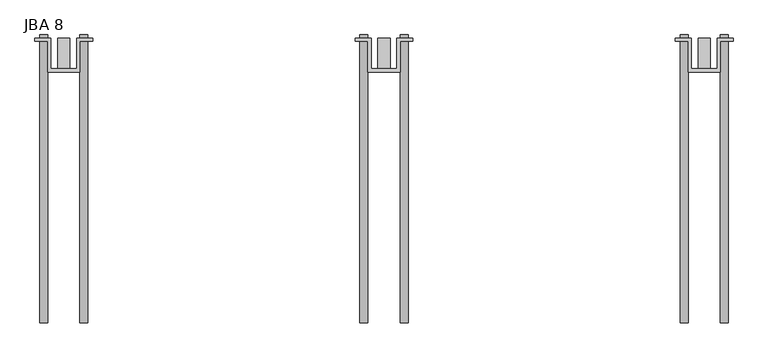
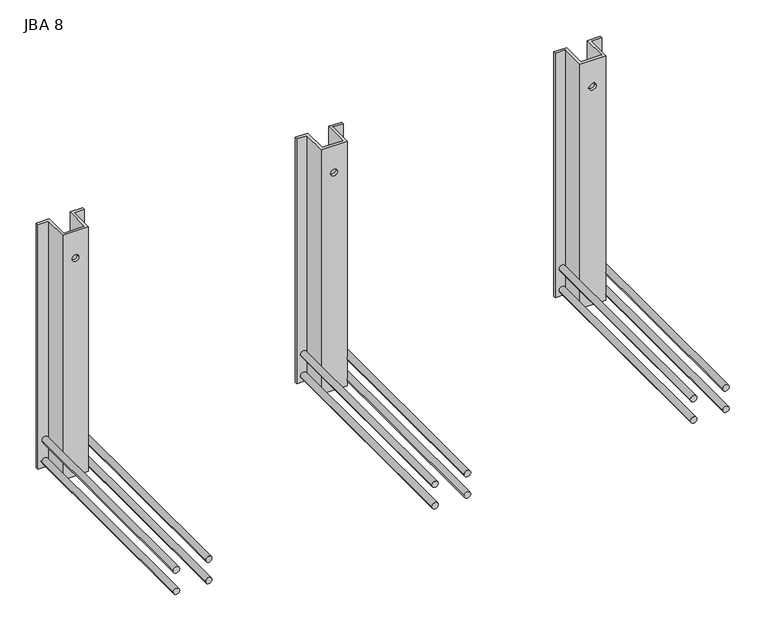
"""IFC4 building model written with IfcOpenShell, lengths in millimetres: fastener geometry, JBA JORDAHL® support corbels_1 : JBA 8."""

from ifc_helpers import new_model, si_unit, point, frame, frame_2d, origin, place, context, project, spatial, polyline, circle_curve, trimmed, segment, composite_curve, outline, extrude, source, transform, mapped, element, save
from ifc_brep_helpers import plane_surface, revolved_surface, advanced_brep


def jba_8_e973712a(model_context):
    return source(origin(), model_context, "Body", "SolidModel", [
        extrude(outline(composite_curve([segment(trimmed(circle_curve(frame_2d((-35.0, 1550.0)), 10.0), [point((-35.0, 1540.0))], [point((-35.0, 1560.0))], False, "CARTESIAN"), True, "CONTINUOUS"), segment(trimmed(circle_curve(frame_2d((-35.0, 1550.0)), 10.0), [point((-35.0, 1560.0))], [point((-35.0, 1540.0))], False, "CARTESIAN"), True, "CONTINUOUS")], self_intersect=False)), frame((0.0, -627.0, 0.0), z_axis=(0.0, 1.0, 0.0), x_axis=(0.0, 0.0, 1.0)), (0.0, 0.0, 1.0), 720.0),
        extrude(outline(composite_curve([segment(trimmed(circle_curve(frame_2d((-35.0, 1650.0)), 10.0), [point((-35.0, 1640.0))], [point((-35.0, 1660.0))], False, "CARTESIAN"), True, "CONTINUOUS"), segment(trimmed(circle_curve(frame_2d((-35.0, 1650.0)), 10.0), [point((-35.0, 1660.0))], [point((-35.0, 1640.0))], False, "CARTESIAN"), True, "CONTINUOUS")], self_intersect=False)), frame((0.0, -627.0, 0.0), z_axis=(0.0, 1.0, 0.0), x_axis=(0.0, 0.0, 1.0)), (0.0, 0.0, 1.0), 720.0),
        extrude(outline(composite_curve([segment(trimmed(circle_curve(frame_2d((-105.0, 1550.0)), 10.0), [point((-105.0, 1540.0))], [point((-105.0, 1560.0))], False, "CARTESIAN"), True, "CONTINUOUS"), segment(trimmed(circle_curve(frame_2d((-105.0, 1550.0)), 10.0), [point((-105.0, 1560.0))], [point((-105.0, 1540.0))], False, "CARTESIAN"), True, "CONTINUOUS")], self_intersect=False)), frame((0.0, -627.0, 0.0), z_axis=(0.0, 1.0, 0.0), x_axis=(0.0, 0.0, 1.0)), (0.0, 0.0, 1.0), 720.0),
        extrude(outline(composite_curve([segment(trimmed(circle_curve(frame_2d((-105.0, 1650.0)), 10.0), [point((-105.0, 1640.0))], [point((-105.0, 1660.0))], False, "CARTESIAN"), True, "CONTINUOUS"), segment(trimmed(circle_curve(frame_2d((-105.0, 1650.0)), 10.0), [point((-105.0, 1660.0))], [point((-105.0, 1640.0))], False, "CARTESIAN"), True, "CONTINUOUS")], self_intersect=False)), frame((0.0, -627.0, 0.0), z_axis=(0.0, 1.0, 0.0), x_axis=(0.0, 0.0, 1.0)), (0.0, 0.0, 1.0), 720.0),
        advanced_brep(
        [(1528.0, 77.0, 675.0), (1560.0, 77.0, 675.0), (1560.0, 0.0, 675.0), (1640.0, 0.0, 675.0), (1640.0, 77.0, 675.0), (1672.0, 77.0, 675.0), (1672.0, 85.0, 675.0), (1632.0, 85.0, 675.0), (1632.0, 8.0, 675.0), (1568.0, 8.0, 675.0), (1568.0, 85.0, 675.0), (1528.0, 85.0, 675.0), (1528.0, 77.0, -125.0), (1528.0, 85.0, -125.0), (1568.0, 85.0, -125.0), (1568.0, 8.0, -125.0), (1632.0, 8.0, -125.0), (1632.0, 85.0, -125.0), (1672.0, 85.0, -125.0), (1672.0, 77.0, -125.0), (1640.0, 77.0, -125.0), (1640.0, 0.0, -125.0), (1560.0, 0.0, -125.0), (1560.0, 77.0, -125.0), (1610.5, 0.0, 587.0), (1589.5, 0.0, 587.0), (1589.5, 8.0, 587.0), (1610.5, 8.0, 587.0)],
        [
            (0, 1),
            (1, 2),
            (2, 3),
            (3, 4),
            (4, 5),
            (5, 6),
            (6, 7),
            (7, 8),
            (8, 9),
            (9, 10),
            (10, 11),
            (11, 0),
            (12, 13),
            (13, 14),
            (14, 15),
            (15, 16),
            (16, 17),
            (17, 18),
            (18, 19),
            (19, 20),
            (20, 21),
            (21, 22),
            (22, 23),
            (23, 12),
            (0, 12),
            (23, 1),
            (22, 2),
            (21, 3),
            (24, 25, circle_curve(frame((1600.0, 0.0, 587.0), z_axis=(0.0, 1.0, 0.0), x_axis=(1.0, 0.0, 0.0)), 10.5)),
            (25, 24, circle_curve(frame((1600.0, 0.0, 587.0), z_axis=(0.0, 1.0, 0.0), x_axis=(1.0, 0.0, 0.0)), 10.5)),
            (20, 4),
            (19, 5),
            (18, 6),
            (17, 7),
            (16, 8),
            (15, 9),
            (26, 27, circle_curve(frame((1600.0, 8.0, 587.0), z_axis=(0.0, -1.0, 0.0), x_axis=(1.0, 0.0, 0.0)), 10.5)),
            (27, 26, circle_curve(frame((1600.0, 8.0, 587.0), z_axis=(0.0, -1.0, 0.0), x_axis=(1.0, 0.0, 0.0)), 10.5)),
            (14, 10),
            (13, 11),
            (24, 27),
            (26, 25),
        ],
        [
            plane_surface(frame((1600.0, 85.0, 675.0), z_axis=(0.0, 0.0, 1.0), x_axis=(0.0, -1.0, 0.0))),
            plane_surface(frame((1600.0, 85.0, -125.0), z_axis=(0.0, 0.0, -1.0), x_axis=(0.0, -1.0, 0.0))),
            plane_surface(frame((1528.0, 77.0, 675.0), z_axis=(0.0, -1.0, 0.0), x_axis=(0.0, 0.0, -1.0))),
            plane_surface(frame((1560.0, 77.0, 675.0), z_axis=(-1.0, 0.0, 0.0), x_axis=(0.0, 0.0, -1.0))),
            plane_surface(frame((1560.0, 0.0, 675.0), z_axis=(0.0, -1.0, 0.0), x_axis=(0.0, 0.0, -1.0))),
            plane_surface(frame((1640.0, 0.0, 675.0), z_axis=(1.0, 0.0, 0.0), x_axis=(0.0, 0.0, -1.0))),
            plane_surface(frame((1640.0, 77.0, 675.0), z_axis=(0.0, -1.0, 0.0), x_axis=(0.0, 0.0, -1.0))),
            plane_surface(frame((1672.0, 77.0, 675.0), z_axis=(1.0, 0.0, 0.0), x_axis=(0.0, 0.0, -1.0))),
            plane_surface(frame((1672.0, 85.0, 675.0), z_axis=(0.0, 1.0, 0.0), x_axis=(0.0, 0.0, -1.0))),
            plane_surface(frame((1632.0, 85.0, 675.0), z_axis=(-1.0, 0.0, 0.0), x_axis=(0.0, 0.0, -1.0))),
            plane_surface(frame((1632.0, 8.0, 675.0), z_axis=(0.0, 1.0, 0.0), x_axis=(0.0, 0.0, -1.0))),
            plane_surface(frame((1568.0, 8.0, 675.0), z_axis=(1.0, 0.0, 0.0), x_axis=(0.0, 0.0, -1.0))),
            plane_surface(frame((1568.0, 85.0, 675.0), z_axis=(0.0, 1.0, 0.0), x_axis=(0.0, 0.0, -1.0))),
            plane_surface(frame((1528.0, 85.0, 675.0), z_axis=(-1.0, 0.0, 0.0), x_axis=(0.0, 0.0, -1.0))),
            revolved_surface(polyline([(1610.5, 0.0, 587.0), (1610.5, 8.0, 587.0)]), (1600.0, 8.0, 587.0), (0.0, -1.0, 0.0)),
        ],
        [
            (0, [[1, 2, 3, 4, 5, 6, 7, 8, 9, 10, 11, 12]]),
            (1, [[13, 14, 15, 16, 17, 18, 19, 20, 21, 22, 23, 24]]),
            (2, [[-1, 25, -24, 26]]),
            (3, [[-2, -26, -23, 27]]),
            (4, [[-3, -27, -22, 28], [29, 30]]),
            (5, [[-4, -28, -21, 31]]),
            (6, [[-5, -31, -20, 32]]),
            (7, [[-6, -32, -19, 33]]),
            (8, [[-7, -33, -18, 34]]),
            (9, [[-8, -34, -17, 35]]),
            (10, [[-9, -35, -16, 36], [37, 38]]),
            (11, [[-10, -36, -15, 39]]),
            (12, [[-11, -39, -14, 40]]),
            (13, [[-12, -40, -13, -25]]),
            (14, [[41, -37, 42, -29]]),
            (14, [[-41, -30, -42, -38]]),
        ],
    ),
        extrude(outline(composite_curve([segment(trimmed(circle_curve(frame_2d((150.0, 1600.0)), 15.0), [point((150.0, 1585.0))], [point((150.0, 1615.0))], False, "CARTESIAN"), True, "CONTINUOUS"), segment(trimmed(circle_curve(frame_2d((150.0, 1600.0)), 15.0), [point((150.0, 1615.0))], [point((150.0, 1585.0))], False, "CARTESIAN"), True, "CONTINUOUS")], self_intersect=False)), frame((0.0, 8.0, 0.0), z_axis=(0.0, 1.0, 0.0), x_axis=(0.0, 0.0, 1.0)), (0.0, 0.0, 1.0), 77.0),
        extrude(outline(composite_curve([segment(trimmed(circle_curve(frame_2d((-35.0, 750.0)), 10.0), [point((-35.0, 740.0))], [point((-35.0, 760.0))], False, "CARTESIAN"), True, "CONTINUOUS"), segment(trimmed(circle_curve(frame_2d((-35.0, 750.0)), 10.0), [point((-35.0, 760.0))], [point((-35.0, 740.0))], False, "CARTESIAN"), True, "CONTINUOUS")], self_intersect=False)), frame((0.0, -627.0, 0.0), z_axis=(0.0, 1.0, 0.0), x_axis=(0.0, 0.0, 1.0)), (0.0, 0.0, 1.0), 720.0),
        extrude(outline(composite_curve([segment(trimmed(circle_curve(frame_2d((-35.0, 850.0)), 10.0), [point((-35.0, 840.0))], [point((-35.0, 860.0))], False, "CARTESIAN"), True, "CONTINUOUS"), segment(trimmed(circle_curve(frame_2d((-35.0, 850.0)), 10.0), [point((-35.0, 860.0))], [point((-35.0, 840.0))], False, "CARTESIAN"), True, "CONTINUOUS")], self_intersect=False)), frame((0.0, -627.0, 0.0), z_axis=(0.0, 1.0, 0.0), x_axis=(0.0, 0.0, 1.0)), (0.0, 0.0, 1.0), 720.0),
        extrude(outline(composite_curve([segment(trimmed(circle_curve(frame_2d((-105.0, 750.0)), 10.0), [point((-105.0, 740.0))], [point((-105.0, 760.0))], False, "CARTESIAN"), True, "CONTINUOUS"), segment(trimmed(circle_curve(frame_2d((-105.0, 750.0)), 10.0), [point((-105.0, 760.0))], [point((-105.0, 740.0))], False, "CARTESIAN"), True, "CONTINUOUS")], self_intersect=False)), frame((0.0, -627.0, 0.0), z_axis=(0.0, 1.0, 0.0), x_axis=(0.0, 0.0, 1.0)), (0.0, 0.0, 1.0), 720.0),
        extrude(outline(composite_curve([segment(trimmed(circle_curve(frame_2d((-105.0, 850.0)), 10.0), [point((-105.0, 840.0))], [point((-105.0, 860.0))], False, "CARTESIAN"), True, "CONTINUOUS"), segment(trimmed(circle_curve(frame_2d((-105.0, 850.0)), 10.0), [point((-105.0, 860.0))], [point((-105.0, 840.0))], False, "CARTESIAN"), True, "CONTINUOUS")], self_intersect=False)), frame((0.0, -627.0, 0.0), z_axis=(0.0, 1.0, 0.0), x_axis=(0.0, 0.0, 1.0)), (0.0, 0.0, 1.0), 720.0),
        advanced_brep(
        [(728.0, 77.0, 675.0), (760.0, 77.0, 675.0), (760.0, 0.0, 675.0), (840.0, 0.0, 675.0), (840.0, 77.0, 675.0), (872.0, 77.0, 675.0), (872.0, 85.0, 675.0), (832.0, 85.0, 675.0), (832.0, 8.0, 675.0), (768.0, 8.0, 675.0), (768.0, 85.0, 675.0), (728.0, 85.0, 675.0), (728.0, 77.0, -125.0), (728.0, 85.0, -125.0), (768.0, 85.0, -125.0), (768.0, 8.0, -125.0), (832.0, 8.0, -125.0), (832.0, 85.0, -125.0), (872.0, 85.0, -125.0), (872.0, 77.0, -125.0), (840.0, 77.0, -125.0), (840.0, 0.0, -125.0), (760.0, 0.0, -125.0), (760.0, 77.0, -125.0), (810.5, 0.0, 587.0), (789.5, 0.0, 587.0), (789.5, 8.0, 587.0), (810.5, 8.0, 587.0)],
        [
            (0, 1),
            (1, 2),
            (2, 3),
            (3, 4),
            (4, 5),
            (5, 6),
            (6, 7),
            (7, 8),
            (8, 9),
            (9, 10),
            (10, 11),
            (11, 0),
            (12, 13),
            (13, 14),
            (14, 15),
            (15, 16),
            (16, 17),
            (17, 18),
            (18, 19),
            (19, 20),
            (20, 21),
            (21, 22),
            (22, 23),
            (23, 12),
            (0, 12),
            (23, 1),
            (22, 2),
            (21, 3),
            (24, 25, circle_curve(frame((800.0, 0.0, 587.0), z_axis=(0.0, 1.0, 0.0), x_axis=(1.0, 0.0, 0.0)), 10.5)),
            (25, 24, circle_curve(frame((800.0, 0.0, 587.0), z_axis=(0.0, 1.0, 0.0), x_axis=(1.0, 0.0, 0.0)), 10.5)),
            (20, 4),
            (19, 5),
            (18, 6),
            (17, 7),
            (16, 8),
            (15, 9),
            (26, 27, circle_curve(frame((800.0, 8.0, 587.0), z_axis=(0.0, -1.0, 0.0), x_axis=(1.0, 0.0, 0.0)), 10.5)),
            (27, 26, circle_curve(frame((800.0, 8.0, 587.0), z_axis=(0.0, -1.0, 0.0), x_axis=(1.0, 0.0, 0.0)), 10.5)),
            (14, 10),
            (13, 11),
            (24, 27),
            (26, 25),
        ],
        [
            plane_surface(frame((800.0, 85.0, 675.0), z_axis=(0.0, 0.0, 1.0), x_axis=(0.0, -1.0, 0.0))),
            plane_surface(frame((800.0, 85.0, -125.0), z_axis=(0.0, 0.0, -1.0), x_axis=(0.0, -1.0, 0.0))),
            plane_surface(frame((728.0, 77.0, 675.0), z_axis=(0.0, -1.0, 0.0), x_axis=(0.0, 0.0, -1.0))),
            plane_surface(frame((760.0, 77.0, 675.0), z_axis=(-1.0, 0.0, 0.0), x_axis=(0.0, 0.0, -1.0))),
            plane_surface(frame((760.0, 0.0, 675.0), z_axis=(0.0, -1.0, 0.0), x_axis=(0.0, 0.0, -1.0))),
            plane_surface(frame((840.0, 0.0, 675.0), z_axis=(1.0, 0.0, 0.0), x_axis=(0.0, 0.0, -1.0))),
            plane_surface(frame((840.0, 77.0, 675.0), z_axis=(0.0, -1.0, 0.0), x_axis=(0.0, 0.0, -1.0))),
            plane_surface(frame((872.0, 77.0, 675.0), z_axis=(1.0, 0.0, 0.0), x_axis=(0.0, 0.0, -1.0))),
            plane_surface(frame((872.0, 85.0, 675.0), z_axis=(0.0, 1.0, 0.0), x_axis=(0.0, 0.0, -1.0))),
            plane_surface(frame((832.0, 85.0, 675.0), z_axis=(-1.0, 0.0, 0.0), x_axis=(0.0, 0.0, -1.0))),
            plane_surface(frame((832.0, 8.0, 675.0), z_axis=(0.0, 1.0, 0.0), x_axis=(0.0, 0.0, -1.0))),
            plane_surface(frame((768.0, 8.0, 675.0), z_axis=(1.0, 0.0, 0.0), x_axis=(0.0, 0.0, -1.0))),
            plane_surface(frame((768.0, 85.0, 675.0), z_axis=(0.0, 1.0, 0.0), x_axis=(0.0, 0.0, -1.0))),
            plane_surface(frame((728.0, 85.0, 675.0), z_axis=(-1.0, 0.0, 0.0), x_axis=(0.0, 0.0, -1.0))),
            revolved_surface(polyline([(810.5, 0.0, 587.0), (810.5, 8.0, 587.0)]), (800.0, 8.0, 587.0), (0.0, -1.0, 0.0)),
        ],
        [
            (0, [[1, 2, 3, 4, 5, 6, 7, 8, 9, 10, 11, 12]]),
            (1, [[13, 14, 15, 16, 17, 18, 19, 20, 21, 22, 23, 24]]),
            (2, [[-1, 25, -24, 26]]),
            (3, [[-2, -26, -23, 27]]),
            (4, [[-3, -27, -22, 28], [29, 30]]),
            (5, [[-4, -28, -21, 31]]),
            (6, [[-5, -31, -20, 32]]),
            (7, [[-6, -32, -19, 33]]),
            (8, [[-7, -33, -18, 34]]),
            (9, [[-8, -34, -17, 35]]),
            (10, [[-9, -35, -16, 36], [37, 38]]),
            (11, [[-10, -36, -15, 39]]),
            (12, [[-11, -39, -14, 40]]),
            (13, [[-12, -40, -13, -25]]),
            (14, [[41, -37, 42, -29]]),
            (14, [[-41, -30, -42, -38]]),
        ],
    ),
        extrude(outline(composite_curve([segment(trimmed(circle_curve(frame_2d((150.0, 800.0)), 15.0), [point((150.0, 785.0))], [point((150.0, 815.0))], False, "CARTESIAN"), True, "CONTINUOUS"), segment(trimmed(circle_curve(frame_2d((150.0, 800.0)), 15.0), [point((150.0, 815.0))], [point((150.0, 785.0))], False, "CARTESIAN"), True, "CONTINUOUS")], self_intersect=False)), frame((0.0, 8.0, 0.0), z_axis=(0.0, 1.0, 0.0), x_axis=(0.0, 0.0, 1.0)), (0.0, 0.0, 1.0), 77.0),
        extrude(outline(composite_curve([segment(trimmed(circle_curve(frame_2d((-35.0, -50.0)), 10.0), [point((-35.0, -60.0))], [point((-35.0, -40.0))], False, "CARTESIAN"), True, "CONTINUOUS"), segment(trimmed(circle_curve(frame_2d((-35.0, -50.0)), 10.0), [point((-35.0, -40.0))], [point((-35.0, -60.0))], False, "CARTESIAN"), True, "CONTINUOUS")], self_intersect=False)), frame((0.0, -627.0, 0.0), z_axis=(0.0, 1.0, 0.0), x_axis=(0.0, 0.0, 1.0)), (0.0, 0.0, 1.0), 720.0),
        extrude(outline(composite_curve([segment(trimmed(circle_curve(frame_2d((-35.0, 50.0)), 10.0), [point((-35.0, 40.0))], [point((-35.0, 60.0))], False, "CARTESIAN"), True, "CONTINUOUS"), segment(trimmed(circle_curve(frame_2d((-35.0, 50.0)), 10.0), [point((-35.0, 60.0))], [point((-35.0, 40.0))], False, "CARTESIAN"), True, "CONTINUOUS")], self_intersect=False)), frame((0.0, -627.0, 0.0), z_axis=(0.0, 1.0, 0.0), x_axis=(0.0, 0.0, 1.0)), (0.0, 0.0, 1.0), 720.0),
        extrude(outline(composite_curve([segment(trimmed(circle_curve(frame_2d((-105.0, -50.0)), 10.0), [point((-105.0, -60.0))], [point((-105.0, -40.0))], False, "CARTESIAN"), True, "CONTINUOUS"), segment(trimmed(circle_curve(frame_2d((-105.0, -50.0)), 10.0), [point((-105.0, -40.0))], [point((-105.0, -60.0))], False, "CARTESIAN"), True, "CONTINUOUS")], self_intersect=False)), frame((0.0, -627.0, 0.0), z_axis=(0.0, 1.0, 0.0), x_axis=(0.0, 0.0, 1.0)), (0.0, 0.0, 1.0), 720.0),
        extrude(outline(composite_curve([segment(trimmed(circle_curve(frame_2d((-105.0, 50.0)), 10.0), [point((-105.0, 40.0))], [point((-105.0, 60.0))], False, "CARTESIAN"), True, "CONTINUOUS"), segment(trimmed(circle_curve(frame_2d((-105.0, 50.0)), 10.0), [point((-105.0, 60.0))], [point((-105.0, 40.0))], False, "CARTESIAN"), True, "CONTINUOUS")], self_intersect=False)), frame((0.0, -627.0, 0.0), z_axis=(0.0, 1.0, 0.0), x_axis=(0.0, 0.0, 1.0)), (0.0, 0.0, 1.0), 720.0),
        advanced_brep(
        [(-72.0, 77.0, 675.0), (-40.0, 77.0, 675.0), (-40.0, 0.0, 675.0), (40.0, 0.0, 675.0), (40.0, 77.0, 675.0), (72.0, 77.0, 675.0), (72.0, 85.0, 675.0), (32.0, 85.0, 675.0), (32.0, 8.0, 675.0), (-32.0, 8.0, 675.0), (-32.0, 85.0, 675.0), (-72.0, 85.0, 675.0), (-72.0, 77.0, -125.0), (-72.0, 85.0, -125.0), (-32.0, 85.0, -125.0), (-32.0, 8.0, -125.0), (32.0, 8.0, -125.0), (32.0, 85.0, -125.0), (72.0, 85.0, -125.0), (72.0, 77.0, -125.0), (40.0, 77.0, -125.0), (40.0, 0.0, -125.0), (-40.0, 0.0, -125.0), (-40.0, 77.0, -125.0), (10.5, 0.0, 587.0), (-10.5, 0.0, 587.0), (-10.5, 8.0, 587.0), (10.5, 8.0, 587.0)],
        [
            (0, 1),
            (1, 2),
            (2, 3),
            (3, 4),
            (4, 5),
            (5, 6),
            (6, 7),
            (7, 8),
            (8, 9),
            (9, 10),
            (10, 11),
            (11, 0),
            (12, 13),
            (13, 14),
            (14, 15),
            (15, 16),
            (16, 17),
            (17, 18),
            (18, 19),
            (19, 20),
            (20, 21),
            (21, 22),
            (22, 23),
            (23, 12),
            (0, 12),
            (23, 1),
            (22, 2),
            (21, 3),
            (24, 25, circle_curve(frame((0.0, 0.0, 587.0), z_axis=(0.0, 1.0, 0.0), x_axis=(1.0, 0.0, 0.0)), 10.5)),
            (25, 24, circle_curve(frame((0.0, 0.0, 587.0), z_axis=(0.0, 1.0, 0.0), x_axis=(1.0, 0.0, 0.0)), 10.5)),
            (20, 4),
            (19, 5),
            (18, 6),
            (17, 7),
            (16, 8),
            (15, 9),
            (26, 27, circle_curve(frame((0.0, 8.0, 587.0), z_axis=(0.0, -1.0, 0.0), x_axis=(1.0, 0.0, 0.0)), 10.5)),
            (27, 26, circle_curve(frame((0.0, 8.0, 587.0), z_axis=(0.0, -1.0, 0.0), x_axis=(1.0, 0.0, 0.0)), 10.5)),
            (14, 10),
            (13, 11),
            (24, 27),
            (26, 25),
        ],
        [
            plane_surface(frame((0.0, 85.0, 675.0), z_axis=(0.0, 0.0, 1.0), x_axis=(0.0, -1.0, 0.0))),
            plane_surface(frame((0.0, 85.0, -125.0), z_axis=(0.0, 0.0, -1.0), x_axis=(0.0, -1.0, 0.0))),
            plane_surface(frame((-72.0, 77.0, 675.0), z_axis=(0.0, -1.0, 0.0), x_axis=(0.0, 0.0, -1.0))),
            plane_surface(frame((-40.0, 77.0, 675.0), z_axis=(-1.0, 0.0, 0.0), x_axis=(0.0, 0.0, -1.0))),
            plane_surface(frame((-40.0, 0.0, 675.0), z_axis=(0.0, -1.0, 0.0), x_axis=(0.0, 0.0, -1.0))),
            plane_surface(frame((40.0, 0.0, 675.0), z_axis=(1.0, 0.0, 0.0), x_axis=(0.0, 0.0, -1.0))),
            plane_surface(frame((40.0, 77.0, 675.0), z_axis=(0.0, -1.0, 0.0), x_axis=(0.0, 0.0, -1.0))),
            plane_surface(frame((72.0, 77.0, 675.0), z_axis=(1.0, 0.0, 0.0), x_axis=(0.0, 0.0, -1.0))),
            plane_surface(frame((72.0, 85.0, 675.0), z_axis=(0.0, 1.0, 0.0), x_axis=(0.0, 0.0, -1.0))),
            plane_surface(frame((32.0, 85.0, 675.0), z_axis=(-1.0, 0.0, 0.0), x_axis=(0.0, 0.0, -1.0))),
            plane_surface(frame((32.0, 8.0, 675.0), z_axis=(0.0, 1.0, 0.0), x_axis=(0.0, 0.0, -1.0))),
            plane_surface(frame((-32.0, 8.0, 675.0), z_axis=(1.0, 0.0, 0.0), x_axis=(0.0, 0.0, -1.0))),
            plane_surface(frame((-32.0, 85.0, 675.0), z_axis=(0.0, 1.0, 0.0), x_axis=(0.0, 0.0, -1.0))),
            plane_surface(frame((-72.0, 85.0, 675.0), z_axis=(-1.0, 0.0, 0.0), x_axis=(0.0, 0.0, -1.0))),
            revolved_surface(polyline([(10.5, 0.0, 587.0), (10.5, 8.0, 587.0)]), (0.0, 8.0, 587.0), (0.0, -1.0, 0.0)),
        ],
        [
            (0, [[1, 2, 3, 4, 5, 6, 7, 8, 9, 10, 11, 12]]),
            (1, [[13, 14, 15, 16, 17, 18, 19, 20, 21, 22, 23, 24]]),
            (2, [[-1, 25, -24, 26]]),
            (3, [[-2, -26, -23, 27]]),
            (4, [[-3, -27, -22, 28], [29, 30]]),
            (5, [[-4, -28, -21, 31]]),
            (6, [[-5, -31, -20, 32]]),
            (7, [[-6, -32, -19, 33]]),
            (8, [[-7, -33, -18, 34]]),
            (9, [[-8, -34, -17, 35]]),
            (10, [[-9, -35, -16, 36], [37, 38]]),
            (11, [[-10, -36, -15, 39]]),
            (12, [[-11, -39, -14, 40]]),
            (13, [[-12, -40, -13, -25]]),
            (14, [[41, -37, 42, -29]]),
            (14, [[-41, -30, -42, -38]]),
        ],
    ),
        extrude(outline(composite_curve([segment(trimmed(circle_curve(frame_2d((150.0, 0.0)), 15.0), [point((150.0, -15.0))], [point((150.0, 15.0))], False, "CARTESIAN"), True, "CONTINUOUS"), segment(trimmed(circle_curve(frame_2d((150.0, 0.0)), 15.0), [point((150.0, 15.0))], [point((150.0, -15.0))], False, "CARTESIAN"), True, "CONTINUOUS")], self_intersect=False)), frame((0.0, 8.0, 0.0), z_axis=(0.0, 1.0, 0.0), x_axis=(0.0, 0.0, 1.0)), (0.0, 0.0, 1.0), 77.0),
    ])


if __name__ == "__main__":
    model = new_model("IFC4")
    model_context = context("Model", 3, world=origin())
    ifc_project = project(units=[si_unit("LENGTHUNIT", "METRE", prefix="MILLI")], contexts=[model_context])
    site = spatial("IfcSite", under=ifc_project)
    building = spatial("IfcBuilding", under=site)
    placement = place(None, origin())
    jba_8_shape = jba_8_e973712a(model_context)
    element("IfcFastener", 1, ObjectType="JBA JORDAHL® support corbels_1 : JBA 8", at=placement, inside=building, context=model_context, shape_type="MappedRepresentation", body=[
        mapped(jba_8_shape, transform((0.0, 0.0, 0.0), x_axis=(1.0, 0.0, 0.0), y_axis=(0.0, 1.0, 0.0), z_axis=(0.0, 0.0, 1.0))),
    ])
    save(model, "model.ifc")
